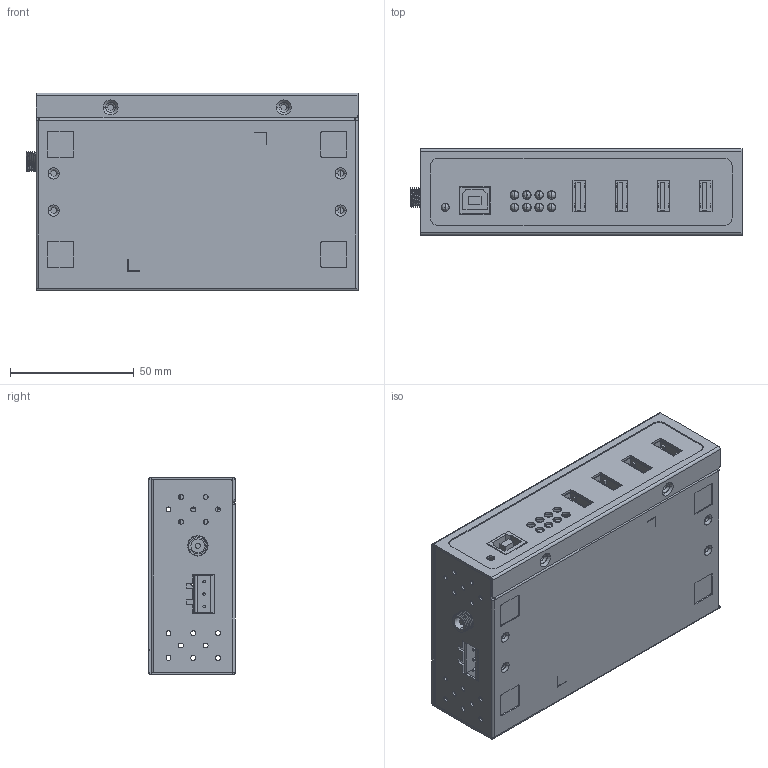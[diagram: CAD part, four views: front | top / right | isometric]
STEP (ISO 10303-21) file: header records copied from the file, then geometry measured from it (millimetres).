
FILE_DESCRIPTION((''),'2;1');
FILE_NAME('PRT0001','2011-06-16T',('Vincent_Huang'),(''),'PRO/ENGINEER BY PARAMETRIC TECHNOLOGY CORPORATION, 2004320','PRO/ENGINEER BY PARAMETRIC TECHNOLOGY CORPORATION, 2004320','');
FILE_SCHEMA(('CONFIG_CONTROL_DESIGN'));
Length unit declared in the file: millimetre
Products named in the file (1): PRT0001
Bounding box: 134.2 x 35 x 80 mm (x, y, z)
Surface area: 105686.8 mm2 (no closed solid volume)
Topology: 0 solids, 28 shells, 1332 faces, 3340 edges, 2122 vertices
Faces by surface type: plane 736, cylinder 542, bspline 24, torus 22, cone 8
Entity records: 41890 total; most frequent: CARTESIAN_POINT 8854, DIRECTION 7093, ORIENTED_EDGE 6680, EDGE_CURVE 3340, AXIS2_PLACEMENT_3D 2513, VERTEX_POINT 2122, VECTOR 2067, LINE 2067
